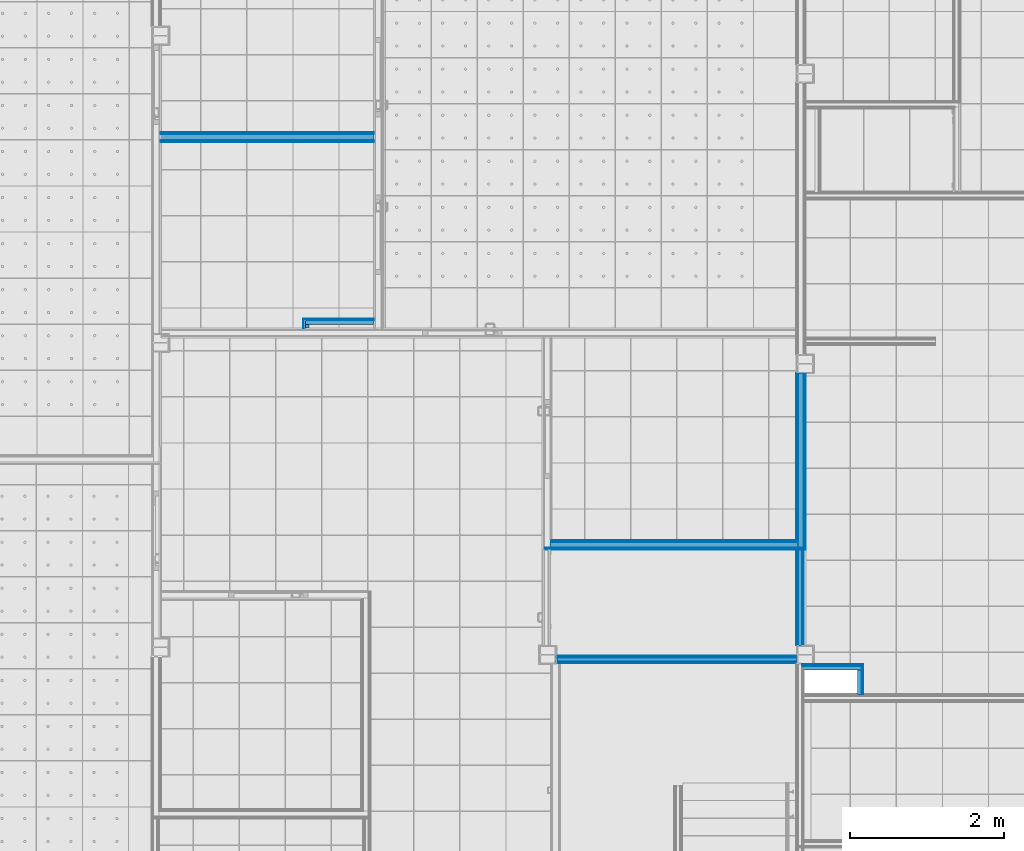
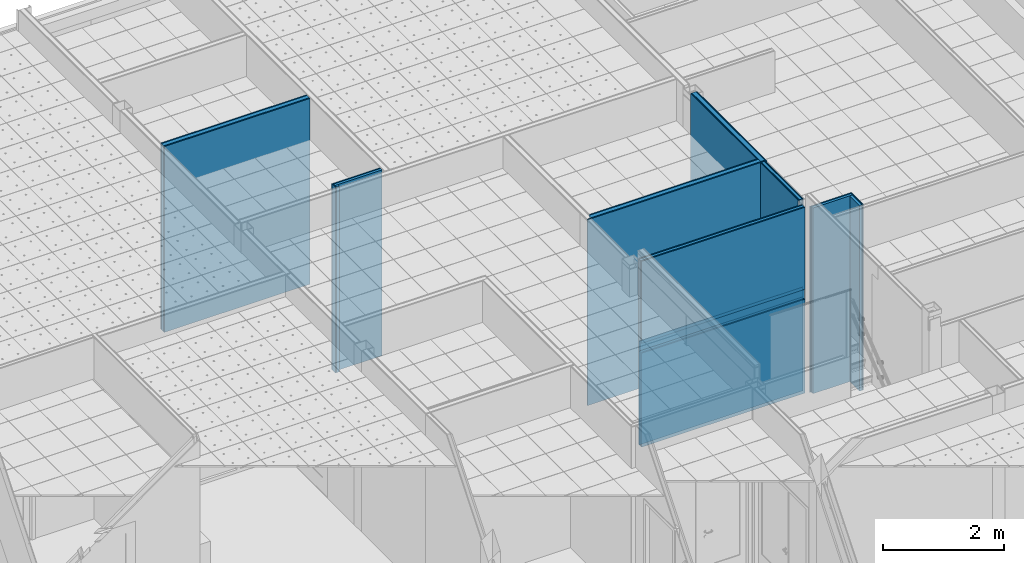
# One storey, part 85 of 338: 45 building element parts, 11 elements without a shape of their own.
"""IFC2X3 building model written with IfcOpenShell, lengths in millimetres."""

import ifcopenshell
import ifcopenshell.guid

model = None  # the IFC model being written
_history = None  # IfcOwnerHistory: only IFC2X3 demands one
_inside = {}  # id of a spatial element -> (the spatial element, [elements in it])
_under = {}  # id of a project, library or spatial element -> (it, [spatial elements below it])
_declared = {}  # id of a project -> (the project, [libraries it declares])
_typed = {}  # id of a type object -> (the type object, [elements of that type])
_made_of = {}  # id of a material, layer set ... -> (it, [elements and type objects made of it])


def new_model(schema):
    """Start an empty IFC model of exactly this schema.

    Asked for "IFC4X3", IfcOpenShell would pick the latest addendum, in which some entities
    have other attributes; the version numbers below select the first issue.
    IFC2X3 requires an IfcOwnerHistory on every rooted entity: one is made here for all.
    """
    global model, _history
    if schema == "IFC4X3":
        model = ifcopenshell.file(schema_version=(4, 3, 0, 0))
    else:
        model = ifcopenshell.file(schema=schema)
    _inside.clear()
    _under.clear()
    _declared.clear()
    _typed.clear()
    _made_of.clear()
    _history = None
    if model.schema == "IFC2X3":
        org = make("IfcOrganization", Name="unknown")
        user = make(
            "IfcPersonAndOrganization",
            ThePerson=make("IfcPerson", FamilyName="unknown"),
            TheOrganization=org,
        )
        app = make(
            "IfcApplication",
            ApplicationDeveloper=org,
            Version="unknown",
            ApplicationFullName="unknown",
            ApplicationIdentifier="unknown",
        )
        _history = make(
            "IfcOwnerHistory",
            OwningUser=user,
            OwningApplication=app,
            ChangeAction="ADDED",
            CreationDate=0,
        )
    return model


def make(cls, **values):
    """One entity of the class cls with the attributes given. An attribute that is None is left unset."""
    return model.create_entity(
        cls, **{name: value for name, value in values.items() if value is not None}
    )


def entity(cls, *values):
    """Any entity or typed value of the class cls, its attributes in the order of the schema. None: left unset."""
    e = model.create_entity(cls)
    for i, value in enumerate(values):
        if value is not None:
            e[i] = value
    return e


def rooted(cls, **values):
    """An entity with a GlobalId (a new one), such as an element, a storey or a relation."""
    return make(cls, GlobalId=ifcopenshell.guid.new(), OwnerHistory=_history, **values)


def si_unit(unit_type, name, prefix=None):
    """IfcSIUnit, for example si_unit("LENGTHUNIT", "METRE", prefix="MILLI")."""
    return make("IfcSIUnit", UnitType=unit_type, Prefix=prefix, Name=name)


def converted_unit(unit_type, name, factor, base, dimensions=None, offset=None):
    """IfcConversionBasedUnit, such as the inch: factor (a typed value) times the base unit."""
    return make(
        "IfcConversionBasedUnit"
        if offset is None
        else "IfcConversionBasedUnitWithOffset",
        ConversionOffset=offset,
        Dimensions=None
        if dimensions is None
        else entity("IfcDimensionalExponents", *dimensions),
        UnitType=unit_type,
        Name=name,
        ConversionFactor=make(
            "IfcMeasureWithUnit", ValueComponent=factor, UnitComponent=base
        ),
    )


def derived_unit(unit_type, elements):
    """IfcDerivedUnit: a product of units, each with its exponent."""
    return make(
        "IfcDerivedUnit",
        Elements=[
            make("IfcDerivedUnitElement", Unit=unit, Exponent=power)
            for unit, power in elements
        ],
        UnitType=unit_type,
    )


def money_unit(currency):
    """IfcMonetaryUnit."""
    return make("IfcMonetaryUnit", Currency=currency)


def assignment(units):
    """IfcUnitAssignment: the units of a project."""
    return None if units is None else make("IfcUnitAssignment", Units=units)


def point(xyz):
    """IfcCartesianPoint."""
    return None if xyz is None else make("IfcCartesianPoint", Coordinates=xyz)


def direction(xyz):
    """IfcDirection."""
    return None if xyz is None else make("IfcDirection", DirectionRatios=xyz)


def frame(location, z_axis=None, x_axis=None):
    """IfcAxis2Placement3D, a coordinate frame: its origin and axes. An axis left out is left unset."""
    return make(
        "IfcAxis2Placement3D",
        Location=point(location),
        Axis=direction(z_axis),
        RefDirection=direction(x_axis),
    )


def origin_with_axes():
    """The frame at (0, 0, 0) with the z axis (0, 0, 1) and the x axis (1, 0, 0) written out."""
    return frame((0.0, 0.0, 0.0), z_axis=(0.0, 0.0, 1.0), x_axis=(1.0, 0.0, 0.0))


def place(relative_to, where):
    """IfcLocalPlacement: puts the frame where relative to a parent placement (None: the world)."""
    return make(
        "IfcLocalPlacement", PlacementRelTo=relative_to, RelativePlacement=where
    )


def context(
    kind, dimensions, precision=None, world=None, true_north=None, identifier=None
):
    """IfcGeometricRepresentationContext, for example the 3D "Model" context."""
    return make(
        "IfcGeometricRepresentationContext",
        ContextIdentifier=identifier,
        ContextType=kind,
        CoordinateSpaceDimension=dimensions,
        Precision=precision,
        WorldCoordinateSystem=world,
        TrueNorth=true_north,
    )


def subcontext(parent, identifier, kind, view, scale=None):
    """IfcGeometricRepresentationSubContext, for example "Body" below "Model"."""
    return make(
        "IfcGeometricRepresentationSubContext",
        ContextIdentifier=identifier,
        ContextType=kind,
        ParentContext=parent,
        TargetScale=scale,
        TargetView=view,
    )


def project(units=None, contexts=None):
    """IfcProject with its units and contexts."""
    return rooted(
        "IfcProject",
        Name="project",
        RepresentationContexts=contexts,
        UnitsInContext=assignment(units),
    )


def spatial(cls, under=None, at=None, **own):
    """A site, building, storey or space (cls), placed at a placement, below another one or the project."""
    s = rooted(cls, ObjectPlacement=at, **own)
    if under is not None:
        _under.setdefault(under.id(), (under, []))[1].append(s)
    return s


def faces_of(points, faces, orient=None, outer=None):
    """IfcFace entities. A face is a list of loops; a loop is a list of indices into points, from 0.

    orient and outer hold one flag for each loop. By default every Orientation is true, the
    first loop of a face is its IfcFaceOuterBound and the others are IfcFaceBound.
    """
    made = []
    for i, loops in enumerate(faces):
        bounds = []
        for j, loop in enumerate(loops):
            is_outer = j == 0 if outer is None else outer[i][j]
            bounds.append(
                make(
                    "IfcFaceOuterBound" if is_outer else "IfcFaceBound",
                    Bound=make("IfcPolyLoop", Polygon=[points[k] for k in loop]),
                    Orientation=True if orient is None else orient[i][j],
                )
            )
        made.append(make("IfcFace", Bounds=bounds))
    return made


def faceted_brep(points, faces, orient=None, outer=None, voids=None):
    """IfcFacetedBrep: a solid bounded by flat faces; with voids (closed shells), ...WithVoids."""
    shared = [point(p) for p in points]
    hull = make("IfcClosedShell", CfsFaces=faces_of(shared, faces, orient, outer))
    if voids is None:
        return make("IfcFacetedBrep", Outer=hull)
    return make(
        "IfcFacetedBrepWithVoids",
        Outer=hull,
        Voids=[
            make(cls, CfsFaces=faces_of(shared, fs, o, b)) for cls, fs, o, b in voids
        ],
    )


def shape(context_of_items, identifier, shape_type, items):
    """IfcShapeRepresentation: the items that make up one representation, for example the "Body"."""
    return make(
        "IfcShapeRepresentation",
        ContextOfItems=context_of_items,
        RepresentationIdentifier=identifier,
        RepresentationType=shape_type,
        Items=items,
    )


def material(Name=None, Category=None):
    """IfcMaterial."""
    return make("IfcMaterial", Name=Name, Category=Category)


def made_of(thing, what):
    """Note that an element or type object is made of a material, layer set ...; save() writes the relation."""
    if what is not None:
        _made_of.setdefault(what.id(), (what, []))[1].append(thing)
    return thing


def type_object(cls, material=None, **own):
    """A type object (cls), such as IfcWallType, which elements share."""
    return made_of(rooted(cls, **own), material)


def element(
    cls,
    number,
    at=None,
    inside=None,
    cuts=None,
    type_object=None,
    material=None,
    context=None,
    identifier="Body",
    shape_type=None,
    held_by="IfcProductDefinitionShape",
    body=None,
    shapes=None,
    **own,
):
    """One element of the class cls, such as IfcWall. Its Tag is "e" and its number.

    at: its placement. inside: the storey or other place that contains it. cuts: it is an
    opening in that element (IfcRelVoidsElement). A single representation is given by context,
    identifier, shape_type and body (its items); several are given by shapes. held_by: the class
    of the entity that holds the representations. save() writes the other relations.
    """
    e = rooted(cls, Tag="e%d" % number, ObjectPlacement=at, **own)
    if body is not None:
        shapes = [shape(context, identifier, shape_type, body)]
    if shapes is not None:
        e.Representation = make(held_by, Representations=shapes)
    if inside is not None:
        _inside.setdefault(inside.id(), (inside, []))[1].append(e)
    if cuts is not None:
        rooted(
            "IfcRelVoidsElement", RelatingBuildingElement=cuts, RelatedOpeningElement=e
        )
    if type_object is not None:
        _typed.setdefault(type_object.id(), (type_object, []))[1].append(e)
    return made_of(e, material)


def aggregate(whole, parts):
    """IfcRelAggregates: a whole, such as a stair, and the parts it consists of."""
    return rooted("IfcRelAggregates", RelatingObject=whole, RelatedObjects=parts)


def save(model, path):
    """Write the relations noted so far, then the file.

    IfcRelAggregates (storeys below a building ...), IfcRelContainedInSpatialStructure (elements
    in a storey), IfcRelDefinesByType, IfcRelAssociatesMaterial and IfcRelDeclares: one each for
    every whole, place, type object, material and project.
    """
    for whole, parts in _under.values():
        aggregate(whole, parts)
    for where, things in _inside.values():
        rooted(
            "IfcRelContainedInSpatialStructure",
            RelatedElements=things,
            RelatingStructure=where,
        )
    for kind, things in _typed.values():
        rooted("IfcRelDefinesByType", RelatedObjects=things, RelatingType=kind)
    for what, things in _made_of.values():
        rooted("IfcRelAssociatesMaterial", RelatedObjects=things, RelatingMaterial=what)
    for by, libraries in _declared.values():
        rooted("IfcRelDeclares", RelatingContext=by, RelatedDefinitions=libraries)
    model.write(path)


model = new_model("IFC2X3")

# Units and contexts
model_context = context("Model", 3, precision=0.01, world=origin_with_axes(), true_north=direction((0.0, 1.0)))
plan_context = context("Plan", 3, precision=0.01, world=origin_with_axes(), true_north=direction((0.0, 1.0)))
body_context = subcontext(model_context, "Body", "Model", "MODEL_VIEW")
ifc_project = project(units=[si_unit("LENGTHUNIT", "METRE", prefix="MILLI"), si_unit("AREAUNIT", "SQUARE_METRE"), si_unit("VOLUMEUNIT", "CUBIC_METRE"), converted_unit("PLANEANGLEUNIT", "DEGREE", entity("IfcPlaneAngleMeasure", 0.0174532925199), si_unit("PLANEANGLEUNIT", "RADIAN"), dimensions=[0, 0, 0, 0, 0, 0, 0]), money_unit("EUR"), converted_unit("TIMEUNIT", "Year", entity("IfcTimeMeasure", 31556926.0), si_unit("TIMEUNIT", "SECOND"), dimensions=[0, 0, 1, 0, 0, 0, 0]), si_unit("MASSUNIT", "GRAM", prefix="KILO"), si_unit("THERMODYNAMICTEMPERATUREUNIT", "DEGREE_CELSIUS"), si_unit("LUMINOUSINTENSITYUNIT", "LUMEN"), si_unit("ENERGYUNIT", "JOULE", prefix="MEGA"), derived_unit("THERMALCONDUCTANCEUNIT", [(si_unit("POWERUNIT", "WATT"), 1), (si_unit("LENGTHUNIT", "METRE"), -1), (si_unit("THERMODYNAMICTEMPERATUREUNIT", "KELVIN"), -1)]), derived_unit("SPECIFICHEATCAPACITYUNIT", [(si_unit("ENERGYUNIT", "JOULE"), 1), (si_unit("MASSUNIT", "GRAM", prefix="KILO"), -1), (si_unit("THERMODYNAMICTEMPERATUREUNIT", "KELVIN"), -1)]), derived_unit("MASSDENSITYUNIT", [(si_unit("MASSUNIT", "GRAM", prefix="KILO"), 1), (si_unit("VOLUMEUNIT", "CUBIC_METRE"), -1)])], contexts=[model_context, plan_context])

# Site, building, storey
site_placement = place(None, origin_with_axes())
site = spatial("IfcSite", under=ifc_project, at=site_placement, Name="Fortuinstraat Woensdrecht", CompositionType="ELEMENT")
building_placement = place(site_placement, origin_with_axes())
building = spatial("IfcBuilding", under=site, at=building_placement, Name="IKC Fortuna", CompositionType="ELEMENT")
storey_placement = place(building_placement, origin_with_axes())
storey = spatial("IfcBuildingStorey", under=building, at=storey_placement, Name="00 begane grond", CompositionType="ELEMENT", Elevation=0.0)

# Wall, building element parts
wall_type_1 = type_object("IfcWallType", Name="MS125 2.75.2A 125", PredefinedType="NOTDEFINED")
wall_1_placement = place(storey_placement, frame((28851.9349765, 27669.7966283, -90.0), z_axis=(0.0, 0.0, 1.0), x_axis=(0.0, -1.0, 0.0)))
wall_1 = element("IfcWall", 1, at=wall_1_placement, inside=storey, type_object=wall_type_1, Name="22_Wand_Binnenwand")
ifc_material_1 = material(Name="Gipsplaat")
building_element_part_1_placement = place(wall_1_placement, origin_with_axes())
building_element_part_1 = element("IfcBuildingElementPart", 2, at=building_element_part_1_placement, material=ifc_material_1, Name="Gipsplaat", context=body_context, shape_type="Brep", body=[
    faceted_brep([(2301.70292257, 125.0, 3740.0), (0.0, 125.0, 3740.0), (0.0, 112.5, 3740.0), (2301.70292257, 112.5, 3740.0), (2301.70292257, 125.0, 0.0), (0.0, 125.0, 0.0), (0.0, 112.5, 0.0), (2301.70292257, 112.5, 0.0)], [[[0, 1, 2, 3]], [[4, 5, 1, 0]], [[2, 1, 5, 6]], [[3, 2, 6, 7]], [[3, 7, 4, 0]], [[7, 6, 5, 4]]]),
])
building_element_part_2_placement = place(wall_1_placement, origin_with_axes())
building_element_part_2 = element("IfcBuildingElementPart", 3, at=building_element_part_2_placement, material=ifc_material_1, Name="Gipsplaat", context=body_context, shape_type="Brep", body=[
    faceted_brep([(2289.20292257, 112.5, 3740.0), (0.0, 112.5, 3740.0), (0.0, 100.0, 3740.0), (2289.20292257, 100.0, 3740.0), (2289.20292257, 112.5, 0.0), (0.0, 112.5, 0.0), (0.0, 100.0, 0.0), (2289.20292257, 100.0, 0.0)], [[[0, 1, 2, 3]], [[4, 5, 1, 0]], [[2, 1, 5, 6]], [[3, 2, 6, 7]], [[3, 7, 4, 0]], [[7, 6, 5, 4]]]),
])
ifc_material_2 = material(Name="Isolatie - Steenwol LSW")
building_element_part_3_placement = place(wall_1_placement, origin_with_axes())
building_element_part_3 = element("IfcBuildingElementPart", 4, at=building_element_part_3_placement, material=ifc_material_2, Name="Isolatie - Steenwol LSW", context=body_context, shape_type="Brep", body=[
    faceted_brep([(2276.70292257, 100.0, 3740.0), (0.0, 100.0, 3740.0), (0.0, 25.0, 3740.0), (2276.70292257, 25.0, 3740.0), (2276.70292257, 100.0, 0.0), (0.0, 100.0, 0.0), (0.0, 25.0, 0.0), (2276.70292257, 25.0, 0.0)], [[[0, 1, 2, 3]], [[4, 5, 1, 0]], [[2, 1, 5, 6]], [[3, 2, 6, 7]], [[3, 7, 4, 0]], [[7, 6, 5, 4]]]),
])
building_element_part_4_placement = place(wall_1_placement, origin_with_axes())
building_element_part_4 = element("IfcBuildingElementPart", 5, at=building_element_part_4_placement, material=ifc_material_1, Name="Gipsplaat", context=body_context, shape_type="Brep", body=[
    faceted_brep([(2201.70292257, 25.0, 3740.0), (0.0, 25.0, 3740.0), (0.0, 12.5, 3740.0), (2201.70292257, 12.5, 3740.0), (2201.70292257, 25.0, 0.0), (0.0, 25.0, 0.0), (0.0, 12.5, 0.0), (2201.70292257, 12.5, 0.0)], [[[0, 1, 2, 3]], [[4, 5, 1, 0]], [[2, 1, 5, 6]], [[3, 2, 6, 7]], [[3, 7, 4, 0]], [[7, 6, 5, 4]]]),
])
building_element_part_5_placement = place(wall_1_placement, origin_with_axes())
building_element_part_5 = element("IfcBuildingElementPart", 6, at=building_element_part_5_placement, material=ifc_material_1, Name="Gipsplaat", context=body_context, shape_type="Brep", body=[
    faceted_brep([(2189.20292257, 12.5, 3740.0), (0.0, 12.5, 3740.0), (0.0, 0.0, 3740.0), (2189.20292257, 0.0, 3740.0), (2189.20292257, 12.5, 0.0), (0.0, 12.5, 0.0), (0.0, 0.0, 0.0), (2189.20292257, 0.0, 0.0)], [[[0, 1, 2, 3]], [[4, 5, 1, 0]], [[2, 1, 5, 6]], [[3, 2, 6, 7]], [[3, 7, 4, 0]], [[7, 6, 5, 4]]]),
])
aggregate(wall_1, [building_element_part_1, building_element_part_2, building_element_part_3, building_element_part_4, building_element_part_5])

wall_type_2 = type_object("IfcWallType", Name="MS100 2.50.2A 100", PredefinedType="NOTDEFINED")
wall_2_placement = place(storey_placement, frame((25733.0349765, 23889.7639111, 2000.0), z_axis=(0.0, 0.0, 1.0), x_axis=(1.0, 0.0, 0.0)))
wall_2 = element("IfcWall", 7, at=wall_2_placement, inside=storey, type_object=wall_type_2, Name="22_Wand_Binnenwand")
building_element_part_6_placement = place(wall_2_placement, origin_with_axes())
building_element_part_6 = element("IfcBuildingElementPart", 8, at=building_element_part_6_placement, material=ifc_material_1, Name="Gipsplaat", context=body_context, shape_type="Brep", body=[
    faceted_brep([(3118.9, 87.5, 1650.0), (3118.9, 100.0, 1650.0), (0.0, 100.0, 1650.0), (0.0, 87.5, 1650.0), (3118.9, 87.5, 0.0), (3118.9, 100.0, 0.0), (0.0, 100.0, 0.0), (0.0, 87.5, 0.0)], [[[0, 1, 2, 3]], [[0, 4, 5, 1]], [[1, 5, 6, 2]], [[3, 2, 6, 7]], [[4, 0, 3, 7]], [[5, 4, 7, 6]]]),
])
building_element_part_7_placement = place(wall_2_placement, origin_with_axes())
building_element_part_7 = element("IfcBuildingElementPart", 9, at=building_element_part_7_placement, material=ifc_material_1, Name="Gipsplaat", context=body_context, shape_type="Brep", body=[
    faceted_brep([(3118.9, 75.0, 1650.0), (3118.9, 87.5, 1650.0), (0.0, 87.5, 1650.0), (0.0, 75.0, 1650.0), (3118.9, 75.0, 0.0), (3118.9, 87.5, 0.0), (0.0, 87.5, 0.0), (0.0, 75.0, 0.0)], [[[0, 1, 2, 3]], [[0, 4, 5, 1]], [[1, 5, 6, 2]], [[3, 2, 6, 7]], [[4, 0, 3, 7]], [[5, 4, 7, 6]]]),
])
building_element_part_8_placement = place(wall_2_placement, origin_with_axes())
building_element_part_8 = element("IfcBuildingElementPart", 10, at=building_element_part_8_placement, material=ifc_material_2, Name="Isolatie - Steenwol LSW", context=body_context, shape_type="Brep", body=[
    faceted_brep([(3118.9, 25.0, 1650.0), (3118.9, 75.0, 1650.0), (0.0, 75.0, 1650.0), (0.0, 25.0, 1650.0), (3118.9, 25.0, 0.0), (3118.9, 75.0, 0.0), (0.0, 75.0, 0.0), (0.0, 25.0, 0.0)], [[[0, 1, 2, 3]], [[0, 4, 5, 1]], [[1, 5, 6, 2]], [[3, 2, 6, 7]], [[4, 0, 3, 7]], [[5, 4, 7, 6]]]),
])
building_element_part_9_placement = place(wall_2_placement, origin_with_axes())
building_element_part_9 = element("IfcBuildingElementPart", 11, at=building_element_part_9_placement, material=ifc_material_1, Name="Gipsplaat", context=body_context, shape_type="Brep", body=[
    faceted_brep([(3118.9, 12.5, 1650.0), (3118.9, 25.0, 1650.0), (0.0, 25.0, 1650.0), (0.0, 12.5, 1650.0), (3118.9, 12.5, 0.0), (3118.9, 25.0, 0.0), (0.0, 25.0, 0.0), (0.0, 12.5, 0.0)], [[[0, 1, 2, 3]], [[0, 4, 5, 1]], [[1, 5, 6, 2]], [[3, 2, 6, 7]], [[4, 0, 3, 7]], [[5, 4, 7, 6]]]),
])
building_element_part_10_placement = place(wall_2_placement, origin_with_axes())
building_element_part_10 = element("IfcBuildingElementPart", 12, at=building_element_part_10_placement, material=ifc_material_1, Name="Gipsplaat", context=body_context, shape_type="Brep", body=[
    faceted_brep([(3118.9, 0.0, 1650.0), (3118.9, 12.5, 1650.0), (0.0, 12.5, 1650.0), (0.0, 0.0, 1650.0), (3118.9, 0.0, 0.0), (3118.9, 12.5, 0.0), (0.0, 12.5, 0.0), (0.0, 0.0, 0.0)], [[[0, 1, 2, 3]], [[0, 4, 5, 1]], [[1, 5, 6, 2]], [[3, 2, 6, 7]], [[4, 0, 3, 7]], [[5, 4, 7, 6]]]),
])
aggregate(wall_2, [building_element_part_6, building_element_part_7, building_element_part_8, building_element_part_9, building_element_part_10])

wall_3_placement = place(storey_placement, frame((25544.310763, 25368.0937057, -90.0), z_axis=(0.0, 0.0, 1.0), x_axis=(1.0, 0.0, 0.0)))
wall_3 = element("IfcWall", 13, at=wall_3_placement, inside=storey, type_object=wall_type_1, Name="22_Wand_Binnenwand")
building_element_part_11_placement = place(wall_3_placement, origin_with_axes())
building_element_part_11 = element("IfcBuildingElementPart", 14, at=building_element_part_11_placement, material=ifc_material_1, Name="Gipsplaat", context=body_context, shape_type="Brep", body=[
    faceted_brep([(3307.62421356, 112.5, 3740.0), (3307.62421356, 125.0, 3740.0), (125.0, 125.0, 3740.0), (125.0, 112.5, 3740.0), (3307.62421356, 112.5, 0.0), (3307.62421356, 125.0, 0.0), (125.0, 125.0, 0.0), (125.0, 112.5, 0.0)], [[[0, 1, 2, 3]], [[1, 0, 4, 5]], [[1, 5, 6, 2]], [[7, 3, 2, 6]], [[4, 0, 3, 7]], [[5, 4, 7, 6]]]),
])
building_element_part_12_placement = place(wall_3_placement, origin_with_axes())
building_element_part_12 = element("IfcBuildingElementPart", 15, at=building_element_part_12_placement, material=ifc_material_1, Name="Gipsplaat", context=body_context, shape_type="Brep", body=[
    faceted_brep([(3320.12421356, 100.0, 3740.0), (3320.12421356, 112.5, 3740.0), (112.5, 112.5, 3740.0), (112.5, 100.0, 3740.0), (3320.12421356, 100.0, 0.0), (3320.12421356, 112.5, 0.0), (112.5, 112.5, 0.0), (112.5, 100.0, 0.0)], [[[0, 1, 2, 3]], [[1, 0, 4, 5]], [[1, 5, 6, 2]], [[7, 3, 2, 6]], [[4, 0, 3, 7]], [[5, 4, 7, 6]]]),
])
building_element_part_13_placement = place(wall_3_placement, origin_with_axes())
building_element_part_13 = element("IfcBuildingElementPart", 16, at=building_element_part_13_placement, material=ifc_material_2, Name="Isolatie - Steenwol LSW", context=body_context, shape_type="Brep", body=[
    faceted_brep([(3332.62421356, 25.0, 3740.0), (3332.62421356, 100.0, 3740.0), (100.0, 100.0, 3740.0), (100.0, 25.0, 3740.0), (3332.62421356, 25.0, 0.0), (3332.62421356, 100.0, 0.0), (100.0, 100.0, 0.0), (100.0, 25.0, 0.0)], [[[0, 1, 2, 3]], [[1, 0, 4, 5]], [[1, 5, 6, 2]], [[7, 3, 2, 6]], [[4, 0, 3, 7]], [[5, 4, 7, 6]]]),
])
building_element_part_14_placement = place(wall_3_placement, origin_with_axes())
building_element_part_14 = element("IfcBuildingElementPart", 17, at=building_element_part_14_placement, material=ifc_material_1, Name="Gipsplaat", context=body_context, shape_type="Brep", body=[
    faceted_brep([(3407.62421356, 12.5, 3740.0), (3407.62421356, 25.0, 3740.0), (25.0, 25.0, 3740.0), (25.0, 12.5, 3740.0), (3407.62421356, 12.5, 0.0), (3407.62421356, 25.0, 0.0), (25.0, 25.0, 0.0), (25.0, 12.5, 0.0)], [[[0, 1, 2, 3]], [[1, 0, 4, 5]], [[1, 5, 6, 2]], [[7, 3, 2, 6]], [[4, 0, 3, 7]], [[5, 4, 7, 6]]]),
])
building_element_part_15_placement = place(wall_3_placement, origin_with_axes())
building_element_part_15 = element("IfcBuildingElementPart", 18, at=building_element_part_15_placement, material=ifc_material_1, Name="Gipsplaat", context=body_context, shape_type="Brep", body=[
    faceted_brep([(3420.12421356, 0.0, 3740.0), (3420.12421356, 12.5, 3740.0), (12.5, 12.5, 3740.0), (12.5, 0.0, 3740.0), (3420.12421356, 0.0, 0.0), (3420.12421356, 12.5, 0.0), (12.5, 12.5, 0.0), (12.5, 0.0, 0.0)], [[[0, 1, 2, 3]], [[1, 0, 4, 5]], [[1, 5, 6, 2]], [[7, 3, 2, 6]], [[4, 0, 3, 7]], [[5, 4, 7, 6]]]),
])
aggregate(wall_3, [building_element_part_11, building_element_part_12, building_element_part_13, building_element_part_14, building_element_part_15])

wall_4_placement = place(storey_placement, frame((20569.4349765, 30682.40257, -90.0), z_axis=(0.0, 0.0, 1.0), x_axis=(1.0, 0.0, 0.0)))
wall_4 = element("IfcWall", 19, at=wall_4_placement, inside=storey, type_object=wall_type_1, Name="22_Wand_Binnenwand")
building_element_part_16_placement = place(wall_4_placement, origin_with_axes())
building_element_part_16 = element("IfcBuildingElementPart", 20, at=building_element_part_16_placement, material=ifc_material_1, Name="Gipsplaat", context=body_context, shape_type="Brep", body=[
    faceted_brep([(2774.92003444, 125.0, 3740.0), (0.0, 125.0, 3740.0), (0.0, 112.5, 3740.0), (2774.92003444, 112.5, 3740.0), (2774.92003444, 125.0, 0.0), (0.0, 125.0, 0.0), (0.0, 112.5, 0.0), (2774.92003444, 112.5, 0.0)], [[[0, 1, 2, 3]], [[4, 5, 1, 0]], [[2, 1, 5, 6]], [[3, 2, 6, 7]], [[3, 7, 4, 0]], [[7, 6, 5, 4]]]),
])
building_element_part_17_placement = place(wall_4_placement, origin_with_axes())
building_element_part_17 = element("IfcBuildingElementPart", 21, at=building_element_part_17_placement, material=ifc_material_1, Name="Gipsplaat", context=body_context, shape_type="Brep", body=[
    faceted_brep([(2774.92003444, 112.5, 3740.0), (0.0, 112.5, 3740.0), (0.0, 100.0, 3740.0), (2774.92003444, 100.0, 3740.0), (2774.92003444, 112.5, 0.0), (0.0, 112.5, 0.0), (0.0, 100.0, 0.0), (2774.92003444, 100.0, 0.0)], [[[0, 1, 2, 3]], [[4, 5, 1, 0]], [[2, 1, 5, 6]], [[3, 2, 6, 7]], [[3, 7, 4, 0]], [[7, 6, 5, 4]]]),
])
building_element_part_18_placement = place(wall_4_placement, origin_with_axes())
building_element_part_18 = element("IfcBuildingElementPart", 22, at=building_element_part_18_placement, material=ifc_material_2, Name="Isolatie - Steenwol LSW", context=body_context, shape_type="Brep", body=[
    faceted_brep([(2774.92003444, 100.0, 3740.0), (0.0, 100.0, 3740.0), (0.0, 25.0, 3740.0), (2774.92003444, 25.0, 3740.0), (2774.92003444, 100.0, 0.0), (0.0, 100.0, 0.0), (0.0, 25.0, 0.0), (2774.92003444, 25.0, 0.0)], [[[0, 1, 2, 3]], [[4, 5, 1, 0]], [[2, 1, 5, 6]], [[3, 2, 6, 7]], [[3, 7, 4, 0]], [[7, 6, 5, 4]]]),
])
building_element_part_19_placement = place(wall_4_placement, origin_with_axes())
building_element_part_19 = element("IfcBuildingElementPart", 23, at=building_element_part_19_placement, material=ifc_material_1, Name="Gipsplaat", context=body_context, shape_type="Brep", body=[
    faceted_brep([(2774.92003444, 25.0, 3740.0), (0.0, 25.0, 3740.0), (0.0, 12.5, 3740.0), (2774.92003444, 12.5, 3740.0), (2774.92003444, 25.0, 0.0), (0.0, 25.0, 0.0), (0.0, 12.5, 0.0), (2774.92003444, 12.5, 0.0)], [[[0, 1, 2, 3]], [[4, 5, 1, 0]], [[2, 1, 5, 6]], [[3, 2, 6, 7]], [[3, 7, 4, 0]], [[7, 6, 5, 4]]]),
])
building_element_part_20_placement = place(wall_4_placement, origin_with_axes())
building_element_part_20 = element("IfcBuildingElementPart", 24, at=building_element_part_20_placement, material=ifc_material_1, Name="Gipsplaat", context=body_context, shape_type="Brep", body=[
    faceted_brep([(2774.92003444, 12.5, 3740.0), (0.0, 12.5, 3740.0), (0.0, 0.0, 3740.0), (2774.92003444, 0.0, 3740.0), (2774.92003444, 12.5, 0.0), (0.0, 12.5, 0.0), (0.0, 0.0, 0.0), (2774.92003444, 0.0, 0.0)], [[[0, 1, 2, 3]], [[4, 5, 1, 0]], [[2, 1, 5, 6]], [[3, 2, 6, 7]], [[3, 7, 4, 0]], [[7, 6, 5, 4]]]),
])
aggregate(wall_4, [building_element_part_16, building_element_part_17, building_element_part_18, building_element_part_19, building_element_part_20])

wall_5_placement = place(storey_placement, frame((28851.9349765, 25368.0937057, -90.0), z_axis=(0.0, 0.0, 1.0), x_axis=(0.0, -1.0, 0.0)))
wall_5 = element("IfcWall", 25, at=wall_5_placement, inside=storey, type_object=wall_type_2, Name="22_Wand_Binnenwand")
building_element_part_21_placement = place(wall_5_placement, origin_with_axes())
building_element_part_21 = element("IfcBuildingElementPart", 26, at=building_element_part_21_placement, material=ifc_material_1, Name="Gipsplaat", context=body_context, shape_type="Brep", body=[
    faceted_brep([(0.0, 100.0, 0.0), (0.0, 100.0, 3740.0), (1243.29707743, 100.0, 3740.0), (1243.29707743, 100.0, 0.0), (0.0, 87.5, 3740.0), (0.0, 87.5, 0.0), (1243.29707743, 87.5, 3740.0), (1243.29707743, 87.5, 0.0)], [[[0, 1, 2, 3]], [[4, 1, 0, 5]], [[1, 4, 6, 2]], [[3, 2, 6, 7]], [[5, 0, 3, 7]], [[4, 5, 7, 6]]]),
])
building_element_part_22_placement = place(wall_5_placement, origin_with_axes())
building_element_part_22 = element("IfcBuildingElementPart", 27, at=building_element_part_22_placement, material=ifc_material_1, Name="Gipsplaat", context=body_context, shape_type="Brep", body=[
    faceted_brep([(0.0, 87.5, 0.0), (0.0, 87.5, 3740.0), (1243.29707743, 87.5, 3740.0), (1243.29707743, 87.5, 0.0), (0.0, 75.0, 3740.0), (0.0, 75.0, 0.0), (1243.29707743, 75.0, 3740.0), (1243.29707743, 75.0, 0.0)], [[[0, 1, 2, 3]], [[4, 1, 0, 5]], [[1, 4, 6, 2]], [[3, 2, 6, 7]], [[5, 0, 3, 7]], [[4, 5, 7, 6]]]),
])
building_element_part_23_placement = place(wall_5_placement, origin_with_axes())
building_element_part_23 = element("IfcBuildingElementPart", 28, at=building_element_part_23_placement, material=ifc_material_2, Name="Isolatie - Steenwol LSW", context=body_context, shape_type="Brep", body=[
    faceted_brep([(0.0, 75.0, 0.0), (0.0, 75.0, 3740.0), (1243.29707743, 75.0, 3740.0), (1243.29707743, 75.0, 0.0), (0.0, 25.0, 3740.0), (0.0, 25.0, 0.0), (1243.29707743, 25.0, 3740.0), (1243.29707743, 25.0, 0.0)], [[[0, 1, 2, 3]], [[4, 1, 0, 5]], [[1, 4, 6, 2]], [[3, 2, 6, 7]], [[5, 0, 3, 7]], [[4, 5, 7, 6]]]),
])
building_element_part_24_placement = place(wall_5_placement, origin_with_axes())
building_element_part_24 = element("IfcBuildingElementPart", 29, at=building_element_part_24_placement, material=ifc_material_1, Name="Gipsplaat", context=body_context, shape_type="Brep", body=[
    faceted_brep([(0.0, 25.0, 0.0), (0.0, 25.0, 3740.0), (1243.29707743, 25.0, 3740.0), (1243.29707743, 25.0, 0.0), (0.0, 12.5, 3740.0), (0.0, 12.5, 0.0), (1243.29707743, 12.5, 3740.0), (1243.29707743, 12.5, 0.0)], [[[0, 1, 2, 3]], [[4, 1, 0, 5]], [[1, 4, 6, 2]], [[3, 2, 6, 7]], [[5, 0, 3, 7]], [[4, 5, 7, 6]]]),
])
building_element_part_25_placement = place(wall_5_placement, origin_with_axes())
building_element_part_25 = element("IfcBuildingElementPart", 30, at=building_element_part_25_placement, material=ifc_material_1, Name="Gipsplaat", context=body_context, shape_type="Brep", body=[
    faceted_brep([(0.0, 12.5, 0.0), (0.0, 12.5, 3740.0), (1243.29707743, 12.5, 3740.0), (1243.29707743, 12.5, 0.0), (0.0, 0.0, 3740.0), (0.0, 0.0, 0.0), (1243.29707743, 0.0, 3740.0), (1243.29707743, 0.0, 0.0)], [[[0, 1, 2, 3]], [[4, 1, 0, 5]], [[1, 4, 6, 2]], [[3, 2, 6, 7]], [[5, 0, 3, 7]], [[4, 5, 7, 6]]]),
])
aggregate(wall_5, [building_element_part_21, building_element_part_22, building_element_part_23, building_element_part_24, building_element_part_25])

wall_type_3 = type_object("IfcWallType", Name="MS75 50.2A 75", PredefinedType="NOTDEFINED")
wall_6_placement = place(storey_placement, frame((23344.355011, 28382.40257, -90.0), z_axis=(0.0, 0.0, 1.0), x_axis=(-1.0, 0.0, 0.0)))
wall_6 = element("IfcWall", 31, at=wall_6_placement, inside=storey, type_object=wall_type_3, Name="22_Wand_Binnenwand")
building_element_part_26_placement = place(wall_6_placement, origin_with_axes())
building_element_part_26 = element("IfcBuildingElementPart", 32, at=building_element_part_26_placement, material=ifc_material_2, Name="Isolatie - Steenwol LSW", context=body_context, shape_type="Brep", body=[
    faceted_brep([(892.00001861, 25.0, 0.0), (0.0, 25.0, 0.0), (0.0, 75.0, 0.0), (892.00001861, 75.0, 0.0), (892.00001861, 25.0, 3740.0), (0.0, 25.0, 3740.0), (0.0, 75.0, 3740.0), (892.00001861, 75.0, 3740.0)], [[[0, 1, 2, 3]], [[4, 5, 1, 0]], [[2, 1, 5, 6]], [[3, 2, 6, 7]], [[3, 7, 4, 0]], [[7, 6, 5, 4]]]),
])
building_element_part_27_placement = place(wall_6_placement, origin_with_axes())
building_element_part_27 = element("IfcBuildingElementPart", 33, at=building_element_part_27_placement, material=ifc_material_1, Name="Gipsplaat", context=body_context, shape_type="Brep", body=[
    faceted_brep([(904.50001861, 12.5, 0.0), (0.0, 12.5, 0.0), (0.0, 25.0, 0.0), (904.50001861, 25.0, 0.0), (904.50001861, 12.5, 3740.0), (0.0, 12.5, 3740.0), (0.0, 25.0, 3740.0), (904.50001861, 25.0, 3740.0)], [[[0, 1, 2, 3]], [[4, 5, 1, 0]], [[2, 1, 5, 6]], [[3, 2, 6, 7]], [[3, 7, 4, 0]], [[7, 6, 5, 4]]]),
])
building_element_part_28_placement = place(wall_6_placement, origin_with_axes())
building_element_part_28 = element("IfcBuildingElementPart", 34, at=building_element_part_28_placement, material=ifc_material_1, Name="Gipsplaat", context=body_context, shape_type="Brep", body=[
    faceted_brep([(917.00001861, 0.0, 0.0), (0.0, 0.0, 0.0), (0.0, 12.5, 0.0), (917.00001861, 12.5, 0.0), (917.00001861, 0.0, 3740.0), (0.0, 0.0, 3740.0), (0.0, 12.5, 3740.0), (917.00001861, 12.5, 3740.0)], [[[0, 1, 2, 3]], [[4, 5, 1, 0]], [[2, 1, 5, 6]], [[3, 2, 6, 7]], [[3, 7, 4, 0]], [[7, 6, 5, 4]]]),
])
aggregate(wall_6, [building_element_part_26, building_element_part_27, building_element_part_28])

wall_7_placement = place(storey_placement, frame((22427.3549924, 28382.40257, -90.0), z_axis=(0.0, 0.0, 1.0), x_axis=(0.0, -1.0, 0.0)))
wall_7 = element("IfcWall", 35, at=wall_7_placement, inside=storey, type_object=wall_type_3, Name="22_Wand_Binnenwand")
building_element_part_29_placement = place(wall_7_placement, origin_with_axes())
building_element_part_29 = element("IfcBuildingElementPart", 36, at=building_element_part_29_placement, material=ifc_material_2, Name="Isolatie - Steenwol LSW", context=body_context, shape_type="Brep", body=[
    faceted_brep([(125.0, 25.0, 3740.0), (125.0, 75.0, 3740.0), (75.0, 75.0, 3740.0), (75.0, 25.0, 3740.0), (125.0, 75.0000186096, 1842.0), (125.0, 25.0, 0.0), (125.0, 75.0, 0.0), (125.0, 75.0000186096, 1000.0), (75.0, 75.0, 0.0), (75.0, 25.0, 0.0)], [[[0, 1, 2, 3]], [[4, 1, 0, 5, 6, 7]], [[7, 6, 8, 2, 1, 4]], [[3, 2, 8, 9]], [[5, 0, 3, 9]], [[6, 5, 9, 8]]]),
])
building_element_part_30_placement = place(wall_7_placement, origin_with_axes())
building_element_part_30 = element("IfcBuildingElementPart", 37, at=building_element_part_30_placement, material=ifc_material_1, Name="Gipsplaat", context=body_context, shape_type="Brep", body=[
    faceted_brep([(125.0, 12.5, 3740.0), (125.0, 25.0, 3740.0), (25.0, 25.0, 3740.0), (25.0, 12.5, 3740.0), (125.0, 25.0, 0.0), (125.0, 12.5, 0.0), (25.0, 25.0, 0.0), (25.0, 12.5, 0.0)], [[[0, 1, 2, 3]], [[4, 1, 0, 5]], [[1, 4, 6, 2]], [[3, 2, 6, 7]], [[5, 0, 3, 7]], [[4, 5, 7, 6]]]),
])
building_element_part_31_placement = place(wall_7_placement, origin_with_axes())
building_element_part_31 = element("IfcBuildingElementPart", 38, at=building_element_part_31_placement, material=ifc_material_1, Name="Gipsplaat", context=body_context, shape_type="Brep", body=[
    faceted_brep([(125.0, 0.0, 3740.0), (125.0, 12.5, 3740.0), (12.5, 12.5, 3740.0), (12.5, 0.0, 3740.0), (125.0, 12.5, 0.0), (125.0, 0.0, 0.0), (12.5, 12.5, 0.0), (12.5, 0.0, 0.0)], [[[0, 1, 2, 3]], [[4, 1, 0, 5]], [[1, 4, 6, 2]], [[3, 2, 6, 7]], [[5, 0, 3, 7]], [[4, 5, 7, 6]]]),
])
aggregate(wall_7, [building_element_part_29, building_element_part_30, building_element_part_31])

wall_8_placement = place(storey_placement, frame((28851.9349765, 23879.7966283, -90.0), z_axis=(0.0, 0.0, 1.0), x_axis=(1.0, 0.0, 0.0)))
wall_8 = element("IfcWall", 39, at=wall_8_placement, inside=storey, type_object=wall_type_3, Name="22_Wand_Binnenwand")
building_element_part_32_placement = place(wall_8_placement, origin_with_axes())
building_element_part_32 = element("IfcBuildingElementPart", 40, at=building_element_part_32_placement, material=ifc_material_1, Name="Gipsplaat", context=body_context, shape_type="Brep", body=[
    faceted_brep([(875.0, 0.0, 3740.0), (75.0, 0.0, 3740.0), (75.0, -12.5, 3740.0), (875.0, -12.5, 3740.0), (875.0, 0.0, 0.0), (75.0, 0.0, 0.0), (75.0, -12.5, 0.0), (875.0, -12.5, 0.0)], [[[0, 1, 2, 3]], [[4, 5, 1, 0]], [[2, 1, 5, 6]], [[3, 2, 6, 7]], [[3, 7, 4, 0]], [[7, 6, 5, 4]]]),
])
building_element_part_33_placement = place(wall_8_placement, origin_with_axes())
building_element_part_33 = element("IfcBuildingElementPart", 41, at=building_element_part_33_placement, material=ifc_material_1, Name="Gipsplaat", context=body_context, shape_type="Brep", body=[
    faceted_brep([(862.5, -12.5, 3740.0), (87.5, -12.5, 3740.0), (87.5, -25.0, 3740.0), (862.5, -25.0, 3740.0), (862.5, -12.5, 0.0), (87.5, -12.5, 0.0), (87.5, -25.0, 0.0), (862.5, -25.0, 0.0)], [[[0, 1, 2, 3]], [[4, 5, 1, 0]], [[2, 1, 5, 6]], [[3, 2, 6, 7]], [[3, 7, 4, 0]], [[7, 6, 5, 4]]]),
])
building_element_part_34_placement = place(wall_8_placement, origin_with_axes())
building_element_part_34 = element("IfcBuildingElementPart", 42, at=building_element_part_34_placement, material=ifc_material_2, Name="Isolatie - Steenwol LSW", context=body_context, shape_type="Brep", body=[
    faceted_brep([(850.0, -25.0, 3740.0), (100.0, -25.0, 3740.0), (100.0, -75.0, 3740.0), (850.0, -75.0, 3740.0), (850.0, -25.0, 0.0), (100.0, -25.0, 0.0), (100.0, -75.0, 0.0), (850.0, -75.0, 0.0)], [[[0, 1, 2, 3]], [[4, 5, 1, 0]], [[2, 1, 5, 6]], [[3, 2, 6, 7]], [[3, 7, 4, 0]], [[7, 6, 5, 4]]]),
])
aggregate(wall_8, [building_element_part_32, building_element_part_33, building_element_part_34])

wall_9_placement = place(storey_placement, frame((29726.9349765, 23879.7966283, -90.0), z_axis=(0.0, 0.0, 1.0), x_axis=(0.0, -1.0, 0.0)))
wall_9 = element("IfcWall", 43, at=wall_9_placement, inside=storey, type_object=wall_type_3, Name="22_Wand_Binnenwand")
building_element_part_35_placement = place(wall_9_placement, origin_with_axes())
building_element_part_35 = element("IfcBuildingElementPart", 44, at=building_element_part_35_placement, material=ifc_material_1, Name="Gipsplaat", context=body_context, shape_type="Brep", body=[
    faceted_brep([(395.283079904, 0.0, 3740.0), (12.5, 0.0, 3740.0), (12.5, -12.5, 3740.0), (395.283079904, -12.5, 3740.0), (395.283079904, 0.0, 0.0), (12.5, 0.0, 0.0), (12.5, -12.5, 0.0), (395.283079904, -12.5, 0.0)], [[[0, 1, 2, 3]], [[4, 5, 1, 0]], [[2, 1, 5, 6]], [[3, 2, 6, 7]], [[3, 7, 4, 0]], [[7, 6, 5, 4]]]),
])
building_element_part_36_placement = place(wall_9_placement, origin_with_axes())
building_element_part_36 = element("IfcBuildingElementPart", 45, at=building_element_part_36_placement, material=ifc_material_1, Name="Gipsplaat", context=body_context, shape_type="Brep", body=[
    faceted_brep([(395.283079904, -12.5, 3740.0), (25.0, -12.5, 3740.0), (25.0, -25.0, 3740.0), (395.283079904, -25.0, 3740.0), (395.283079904, -12.5, 0.0), (25.0, -12.5, 0.0), (25.0, -25.0, 0.0), (395.283079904, -25.0, 0.0)], [[[0, 1, 2, 3]], [[4, 5, 1, 0]], [[2, 1, 5, 6]], [[3, 2, 6, 7]], [[3, 7, 4, 0]], [[7, 6, 5, 4]]]),
])
building_element_part_37_placement = place(wall_9_placement, origin_with_axes())
building_element_part_37 = element("IfcBuildingElementPart", 46, at=building_element_part_37_placement, material=ifc_material_2, Name="Isolatie - Steenwol LSW", context=body_context, shape_type="Brep", body=[
    faceted_brep([(395.283079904, -25.0, 3740.0), (75.0, -25.0, 3740.0), (75.0, -75.0, 3740.0), (395.283079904, -75.0, 3740.0), (395.283079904, -25.0, 0.0), (75.0, -25.0, 0.0), (75.0, -75.0, 0.0), (395.283079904, -75.0, 0.0)], [[[0, 1, 2, 3]], [[4, 5, 1, 0]], [[2, 1, 5, 6]], [[3, 2, 6, 7]], [[3, 7, 4, 0]], [[7, 6, 5, 4]]]),
])
aggregate(wall_9, [building_element_part_35, building_element_part_36, building_element_part_37])

wall_10_placement = place(storey_placement, frame((25733.0349765, 23914.7639111, 1800.0), z_axis=(0.0, 0.0, 1.0), x_axis=(1.0, 0.0, 0.0)))
wall_10 = element("IfcWall", 47, at=wall_10_placement, inside=storey, type_object=wall_type_3, Name="22_Wand_Binnenwand")
building_element_part_38_placement = place(wall_10_placement, origin_with_axes())
building_element_part_38 = element("IfcBuildingElementPart", 48, at=building_element_part_38_placement, material=ifc_material_1, Name="Gipsplaat", context=body_context, shape_type="Brep", body=[
    faceted_brep([(3118.9, 62.5, 200.0), (3118.9, 75.0, 200.0), (0.0, 75.0, 200.0), (0.0, 62.5, 200.0), (3118.9, 62.5, 0.0), (3118.9, 75.0, 0.0), (0.0, 75.0, 0.0), (0.0, 62.5, 0.0)], [[[0, 1, 2, 3]], [[0, 4, 5, 1]], [[1, 5, 6, 2]], [[3, 2, 6, 7]], [[4, 0, 3, 7]], [[5, 4, 7, 6]]]),
])
building_element_part_39_placement = place(wall_10_placement, origin_with_axes())
building_element_part_39 = element("IfcBuildingElementPart", 49, at=building_element_part_39_placement, material=ifc_material_1, Name="Gipsplaat", context=body_context, shape_type="Brep", body=[
    faceted_brep([(3118.9, 50.0, 200.0), (3118.9, 62.5, 200.0), (0.0, 62.5, 200.0), (0.0, 50.0, 200.0), (3118.9, 50.0, 0.0), (3118.9, 62.5, 0.0), (0.0, 62.5, 0.0), (0.0, 50.0, 0.0)], [[[0, 1, 2, 3]], [[0, 4, 5, 1]], [[1, 5, 6, 2]], [[3, 2, 6, 7]], [[4, 0, 3, 7]], [[5, 4, 7, 6]]]),
])
building_element_part_40_placement = place(wall_10_placement, origin_with_axes())
building_element_part_40 = element("IfcBuildingElementPart", 50, at=building_element_part_40_placement, material=ifc_material_2, Name="Isolatie - Steenwol LSW", context=body_context, shape_type="Brep", body=[
    faceted_brep([(3118.9, 0.0, 200.0), (3118.9, 50.0, 200.0), (0.0, 50.0, 200.0), (0.0, 0.0, 200.0), (3118.9, 0.0, 0.0), (3118.9, 50.0, 0.0), (0.0, 50.0, 0.0), (0.0, 0.0, 0.0)], [[[0, 1, 2, 3]], [[0, 4, 5, 1]], [[1, 5, 6, 2]], [[3, 2, 6, 7]], [[4, 0, 3, 7]], [[5, 4, 7, 6]]]),
])
aggregate(wall_10, [building_element_part_38, building_element_part_39, building_element_part_40])

wall_11_placement = place(storey_placement, frame((25733.0349765, 23889.7639111, -90.0), z_axis=(0.0, 0.0, 1.0), x_axis=(1.0, 0.0, 0.0)))
wall_11 = element("IfcWall", 51, at=wall_11_placement, inside=storey, type_object=wall_type_2, Name="22_Wand_Binnenwand")
building_element_part_41_placement = place(wall_11_placement, origin_with_axes())
building_element_part_41 = element("IfcBuildingElementPart", 52, at=building_element_part_41_placement, material=ifc_material_1, Name="Gipsplaat", context=body_context, shape_type="Brep", body=[
    faceted_brep([(3118.9, 87.5, 1890.0), (3118.9, 100.0, 1890.0), (0.0, 100.0, 1890.0), (0.0, 87.5, 1890.0), (3118.9, 87.5, 0.0), (3118.9, 100.0, 0.0), (0.0, 100.0, 0.0), (0.0, 87.5, 0.0)], [[[0, 1, 2, 3]], [[0, 4, 5, 1]], [[1, 5, 6, 2]], [[3, 2, 6, 7]], [[4, 0, 3, 7]], [[5, 4, 7, 6]]]),
])
building_element_part_42_placement = place(wall_11_placement, origin_with_axes())
building_element_part_42 = element("IfcBuildingElementPart", 53, at=building_element_part_42_placement, material=ifc_material_1, Name="Gipsplaat", context=body_context, shape_type="Brep", body=[
    faceted_brep([(3118.9, 75.0, 1890.0), (3118.9, 87.5, 1890.0), (0.0, 87.5, 1890.0), (0.0, 75.0, 1890.0), (3118.9, 75.0, 0.0), (3118.9, 87.5, 0.0), (0.0, 87.5, 0.0), (0.0, 75.0, 0.0)], [[[0, 1, 2, 3]], [[0, 4, 5, 1]], [[1, 5, 6, 2]], [[3, 2, 6, 7]], [[4, 0, 3, 7]], [[5, 4, 7, 6]]]),
])
building_element_part_43_placement = place(wall_11_placement, origin_with_axes())
building_element_part_43 = element("IfcBuildingElementPart", 54, at=building_element_part_43_placement, material=ifc_material_2, Name="Isolatie - Steenwol LSW", context=body_context, shape_type="Brep", body=[
    faceted_brep([(3118.9, 25.0, 1890.0), (3118.9, 75.0, 1890.0), (0.0, 75.0, 1890.0), (0.0, 25.0, 1890.0), (3118.9, 25.0, 0.0), (3118.9, 75.0, 0.0), (0.0, 75.0, 0.0), (0.0, 25.0, 0.0)], [[[0, 1, 2, 3]], [[0, 4, 5, 1]], [[1, 5, 6, 2]], [[3, 2, 6, 7]], [[4, 0, 3, 7]], [[5, 4, 7, 6]]]),
])
building_element_part_44_placement = place(wall_11_placement, origin_with_axes())
building_element_part_44 = element("IfcBuildingElementPart", 55, at=building_element_part_44_placement, material=ifc_material_1, Name="Gipsplaat", context=body_context, shape_type="Brep", body=[
    faceted_brep([(3118.9, 12.5, 1890.0), (3118.9, 25.0, 1890.0), (0.0, 25.0, 1890.0), (0.0, 12.5, 1890.0), (3118.9, 12.5, 0.0), (3118.9, 25.0, 0.0), (0.0, 25.0, 0.0), (0.0, 12.5, 0.0)], [[[0, 1, 2, 3]], [[0, 4, 5, 1]], [[1, 5, 6, 2]], [[3, 2, 6, 7]], [[4, 0, 3, 7]], [[5, 4, 7, 6]]]),
])
building_element_part_45_placement = place(wall_11_placement, origin_with_axes())
building_element_part_45 = element("IfcBuildingElementPart", 56, at=building_element_part_45_placement, material=ifc_material_1, Name="Gipsplaat", context=body_context, shape_type="Brep", body=[
    faceted_brep([(3118.9, 0.0, 1890.0), (3118.9, 12.5, 1890.0), (0.0, 12.5, 1890.0), (0.0, 0.0, 1890.0), (3118.9, 0.0, 0.0), (3118.9, 12.5, 0.0), (0.0, 12.5, 0.0), (0.0, 0.0, 0.0)], [[[0, 1, 2, 3]], [[0, 4, 5, 1]], [[1, 5, 6, 2]], [[3, 2, 6, 7]], [[4, 0, 3, 7]], [[5, 4, 7, 6]]]),
])
aggregate(wall_11, [building_element_part_41, building_element_part_42, building_element_part_43, building_element_part_44, building_element_part_45])

save(model, "model.ifc")
